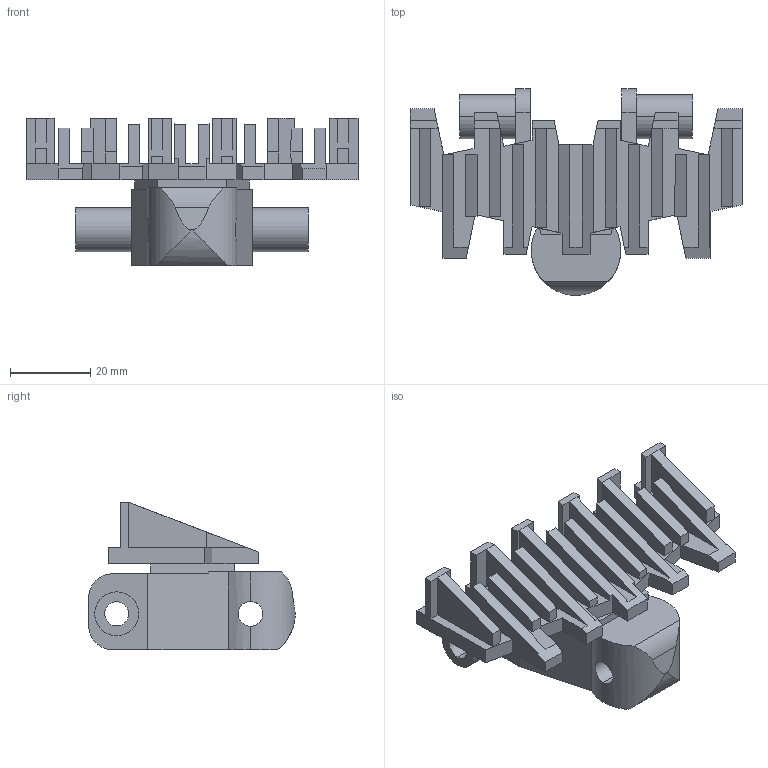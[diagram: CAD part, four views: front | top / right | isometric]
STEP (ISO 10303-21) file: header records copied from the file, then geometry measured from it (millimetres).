
FILE_DESCRIPTION (( 'STEP AP214' ), '1' );
FILE_NAME ('FMRB 5C.step', '2017-04-04T13:34:59', ( '' ), ( '' ), 'SwSTEP 2.0', 'SolidWorks 2015', '' );
FILE_SCHEMA (( 'AUTOMOTIVE_DESIGN' ));
Length unit declared in the file: millimetre
Products named in the file (1): FMRB 5C
Bounding box: 83 x 51.65 x 36.9 mm (x, y, z)
Volume: 31320.9 mm3; surface area: 17571.3 mm2
Topology: 1 solids, 1 shells, 188 faces, 526 edges, 341 vertices
Faces by surface type: plane 169, cylinder 19
Entity records: 6092 total; most frequent: CARTESIAN_POINT 1218, ORIENTED_EDGE 1052, DIRECTION 924, EDGE_CURVE 526, VECTOR 486, LINE 486, VERTEX_POINT 341, AXIS2_PLACEMENT_3D 219
